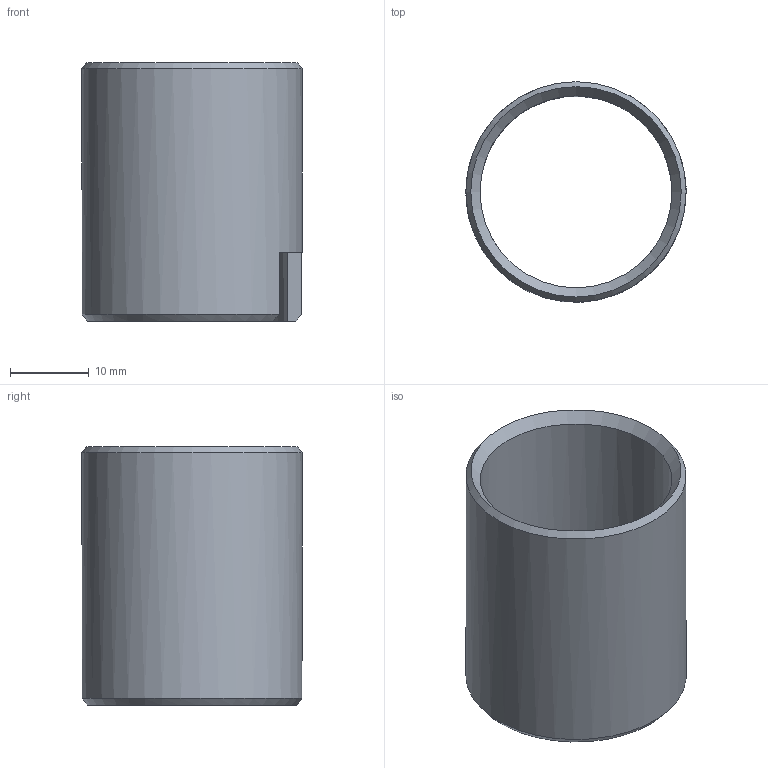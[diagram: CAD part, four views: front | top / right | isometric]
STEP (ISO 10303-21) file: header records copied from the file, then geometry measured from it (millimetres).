
FILE_DESCRIPTION(('Open CASCADE Model'),'2;1');
FILE_NAME('Open CASCADE Shape Model','2026-08-23T08:04:39',('Author'),( 'Open CASCADE'),'Open CASCADE STEP processor 7.9','Open CASCADE 7.9' ,'Unknown');
FILE_SCHEMA(('AUTOMOTIVE_DESIGN { 1 0 10303 214 1 1 1 1 }'));
Length unit declared in the file: millimetre
Products named in the file (2): =>[0:1:1:2]; COMPOUND
Assembly tree (1 placements, depth 2):
  =>[0:1:1:2]
    COMPOUND
Bounding box: 28 x 28 x 32.89 mm (x, y, z)
Volume: 4591.8 mm3; surface area: 5428.2 mm2
Topology: 1 solids, 1 shells, 9 faces, 24 edges, 15 vertices
Faces by surface type: plane 4, cone 3, cylinder 2
Full cylindrical faces by diameter (mm): 24.4 x1, 28 x1
Entity records: 638 total; most frequent: CARTESIAN_POINT 124, DIRECTION 90, ORIENTED_EDGE 48, PCURVE 48, DEFINITIONAL_REPRESENTATION 48, LINE 38, VECTOR 38, EDGE_CURVE 24
